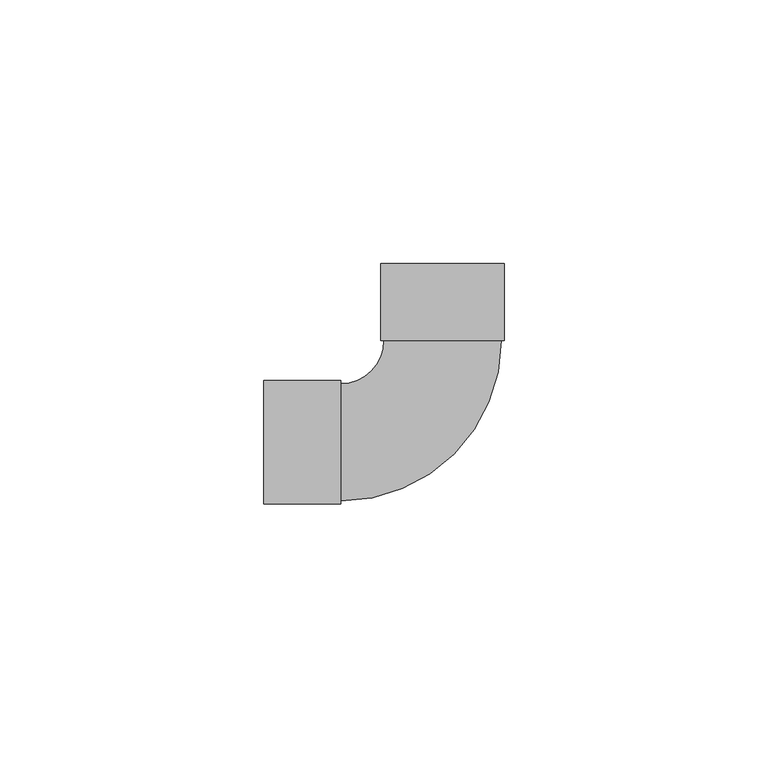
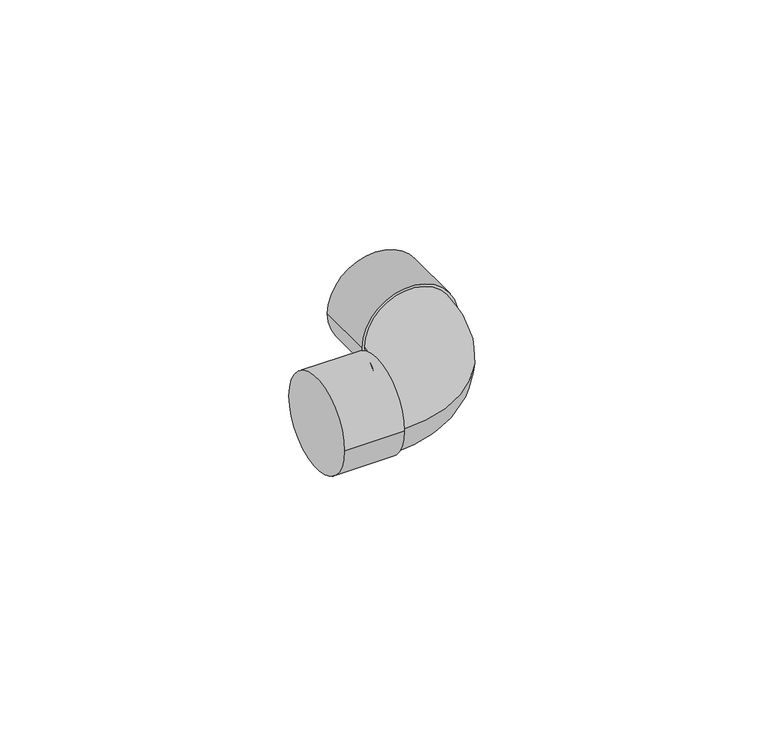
"""IFC4 building model written with IfcOpenShell, lengths in millimetres: pipe fitting geometry, Cotovelo - Soldado - CU : Padrão."""

import ifcopenshell
import ifcopenshell.guid

model = None  # the IFC model being written
_history = None  # IfcOwnerHistory: only IFC2X3 demands one
_inside = {}  # id of a spatial element -> (the spatial element, [elements in it])
_under = {}  # id of a project, library or spatial element -> (it, [spatial elements below it])
_declared = {}  # id of a project -> (the project, [libraries it declares])
_typed = {}  # id of a type object -> (the type object, [elements of that type])
_made_of = {}  # id of a material, layer set ... -> (it, [elements and type objects made of it])


def new_model(schema):
    """Start an empty IFC model of exactly this schema.

    Asked for "IFC4X3", IfcOpenShell would pick the latest addendum, in which some entities
    have other attributes; the version numbers below select the first issue.
    IFC2X3 requires an IfcOwnerHistory on every rooted entity: one is made here for all.
    """
    global model, _history
    if schema == "IFC4X3":
        model = ifcopenshell.file(schema_version=(4, 3, 0, 0))
    else:
        model = ifcopenshell.file(schema=schema)
    _inside.clear()
    _under.clear()
    _declared.clear()
    _typed.clear()
    _made_of.clear()
    _history = None
    if model.schema == "IFC2X3":
        org = make("IfcOrganization", Name="unknown")
        user = make(
            "IfcPersonAndOrganization",
            ThePerson=make("IfcPerson", FamilyName="unknown"),
            TheOrganization=org,
        )
        app = make(
            "IfcApplication",
            ApplicationDeveloper=org,
            Version="unknown",
            ApplicationFullName="unknown",
            ApplicationIdentifier="unknown",
        )
        _history = make(
            "IfcOwnerHistory",
            OwningUser=user,
            OwningApplication=app,
            ChangeAction="ADDED",
            CreationDate=0,
        )
    return model


def make(cls, **values):
    """One entity of the class cls with the attributes given. An attribute that is None is left unset."""
    return model.create_entity(
        cls, **{name: value for name, value in values.items() if value is not None}
    )


def rooted(cls, **values):
    """An entity with a GlobalId (a new one), such as an element, a storey or a relation."""
    return make(cls, GlobalId=ifcopenshell.guid.new(), OwnerHistory=_history, **values)


def si_unit(unit_type, name, prefix=None):
    """IfcSIUnit, for example si_unit("LENGTHUNIT", "METRE", prefix="MILLI")."""
    return make("IfcSIUnit", UnitType=unit_type, Prefix=prefix, Name=name)


def assignment(units):
    """IfcUnitAssignment: the units of a project."""
    return None if units is None else make("IfcUnitAssignment", Units=units)


def point(xyz):
    """IfcCartesianPoint."""
    return None if xyz is None else make("IfcCartesianPoint", Coordinates=xyz)


def direction(xyz):
    """IfcDirection."""
    return None if xyz is None else make("IfcDirection", DirectionRatios=xyz)


def frame(location, z_axis=None, x_axis=None):
    """IfcAxis2Placement3D, a coordinate frame: its origin and axes. An axis left out is left unset."""
    return make(
        "IfcAxis2Placement3D",
        Location=point(location),
        Axis=direction(z_axis),
        RefDirection=direction(x_axis),
    )


def origin():
    """The frame at (0, 0, 0) with its axes left unset."""
    return frame((0.0, 0.0, 0.0))


def place(relative_to, where):
    """IfcLocalPlacement: puts the frame where relative to a parent placement (None: the world)."""
    return make(
        "IfcLocalPlacement", PlacementRelTo=relative_to, RelativePlacement=where
    )


def context(
    kind, dimensions, precision=None, world=None, true_north=None, identifier=None
):
    """IfcGeometricRepresentationContext, for example the 3D "Model" context."""
    return make(
        "IfcGeometricRepresentationContext",
        ContextIdentifier=identifier,
        ContextType=kind,
        CoordinateSpaceDimension=dimensions,
        Precision=precision,
        WorldCoordinateSystem=world,
        TrueNorth=true_north,
    )


def project(units=None, contexts=None):
    """IfcProject with its units and contexts."""
    return rooted(
        "IfcProject",
        Name="project",
        RepresentationContexts=contexts,
        UnitsInContext=assignment(units),
    )


def spatial(cls, under=None, at=None, **own):
    """A site, building, storey or space (cls), placed at a placement, below another one or the project."""
    s = rooted(cls, ObjectPlacement=at, **own)
    if under is not None:
        _under.setdefault(under.id(), (under, []))[1].append(s)
    return s


def circle_curve(where, radius):
    """IfcCircle in the frame where."""
    return make("IfcCircle", Position=where, Radius=radius)


def ellipse_curve(where, semi_axis1, semi_axis2):
    """IfcEllipse in the frame where."""
    return make(
        "IfcEllipse", Position=where, SemiAxis1=semi_axis1, SemiAxis2=semi_axis2
    )


def trimmed(basis, trim1, trim2, sense, master):
    """IfcTrimmedCurve: the piece of a basis curve between two trims."""
    return make(
        "IfcTrimmedCurve",
        BasisCurve=basis,
        Trim1=trim1,
        Trim2=trim2,
        SenseAgreement=sense,
        MasterRepresentation=master,
    )


def shape(context_of_items, identifier, shape_type, items):
    """IfcShapeRepresentation: the items that make up one representation, for example the "Body"."""
    return make(
        "IfcShapeRepresentation",
        ContextOfItems=context_of_items,
        RepresentationIdentifier=identifier,
        RepresentationType=shape_type,
        Items=items,
    )


def source(mapping_origin, context_of_items, identifier, shape_type, items):
    """IfcRepresentationMap: a shape defined once, which mapped items show again and again."""
    return make(
        "IfcRepresentationMap",
        MappingOrigin=mapping_origin,
        MappedRepresentation=shape(context_of_items, identifier, shape_type, items),
    )


def transform(
    local_origin,
    x_axis=None,
    y_axis=None,
    z_axis=None,
    scale=None,
    scale2=None,
    scale3=None,
    uniform=True,
):
    """IfcCartesianTransformationOperator3D, or its non-uniform kind. x_axis, y_axis, z_axis: its Axis1, 2, 3."""
    if uniform:
        return make(
            "IfcCartesianTransformationOperator3D",
            Axis1=direction(x_axis),
            Axis2=direction(y_axis),
            LocalOrigin=point(local_origin),
            Scale=scale,
            Axis3=direction(z_axis),
        )
    return make(
        "IfcCartesianTransformationOperator3DnonUniform",
        Axis1=direction(x_axis),
        Axis2=direction(y_axis),
        LocalOrigin=point(local_origin),
        Scale=scale,
        Axis3=direction(z_axis),
        Scale2=scale2,
        Scale3=scale3,
    )


def mapped(mapping_source, mapping_target):
    """IfcMappedItem: shows the shape of a source again, moved by a transform."""
    return make(
        "IfcMappedItem", MappingSource=mapping_source, MappingTarget=mapping_target
    )


def made_of(thing, what):
    """Note that an element or type object is made of a material, layer set ...; save() writes the relation."""
    if what is not None:
        _made_of.setdefault(what.id(), (what, []))[1].append(thing)
    return thing


def element(
    cls,
    number,
    at=None,
    inside=None,
    cuts=None,
    type_object=None,
    material=None,
    context=None,
    identifier="Body",
    shape_type=None,
    held_by="IfcProductDefinitionShape",
    body=None,
    shapes=None,
    **own,
):
    """One element of the class cls, such as IfcWall. Its Tag is "e" and its number.

    at: its placement. inside: the storey or other place that contains it. cuts: it is an
    opening in that element (IfcRelVoidsElement). A single representation is given by context,
    identifier, shape_type and body (its items); several are given by shapes. held_by: the class
    of the entity that holds the representations. save() writes the other relations.
    """
    e = rooted(cls, Tag="e%d" % number, ObjectPlacement=at, **own)
    if body is not None:
        shapes = [shape(context, identifier, shape_type, body)]
    if shapes is not None:
        e.Representation = make(held_by, Representations=shapes)
    if inside is not None:
        _inside.setdefault(inside.id(), (inside, []))[1].append(e)
    if cuts is not None:
        rooted(
            "IfcRelVoidsElement", RelatingBuildingElement=cuts, RelatedOpeningElement=e
        )
    if type_object is not None:
        _typed.setdefault(type_object.id(), (type_object, []))[1].append(e)
    return made_of(e, material)


def aggregate(whole, parts):
    """IfcRelAggregates: a whole, such as a stair, and the parts it consists of."""
    return rooted("IfcRelAggregates", RelatingObject=whole, RelatedObjects=parts)


def save(model, path):
    """Write the relations noted so far, then the file.

    IfcRelAggregates (storeys below a building ...), IfcRelContainedInSpatialStructure (elements
    in a storey), IfcRelDefinesByType, IfcRelAssociatesMaterial and IfcRelDeclares: one each for
    every whole, place, type object, material and project.
    """
    for whole, parts in _under.values():
        aggregate(whole, parts)
    for where, things in _inside.values():
        rooted(
            "IfcRelContainedInSpatialStructure",
            RelatedElements=things,
            RelatingStructure=where,
        )
    for kind, things in _typed.values():
        rooted("IfcRelDefinesByType", RelatedObjects=things, RelatingType=kind)
    for what, things in _made_of.values():
        rooted("IfcRelAssociatesMaterial", RelatedObjects=things, RelatingMaterial=what)
    for by, libraries in _declared.values():
        rooted("IfcRelDeclares", RelatingContext=by, RelatedDefinitions=libraries)
    model.write(path)


def plane_surface(at):
    """IfcPlane: the flat surface through the origin of the frame at, square to its z axis."""
    return make("IfcPlane", Position=at)


def cylinder_surface(at, radius):
    """IfcCylindricalSurface: all points at the distance radius from the z axis of the frame at."""
    return make("IfcCylindricalSurface", Position=at, Radius=radius)


def revolved_surface(curve, axis_point, axis_direction):
    """IfcSurfaceOfRevolution: the curve turned about the line through axis_point along axis_direction."""
    return make(
        "IfcSurfaceOfRevolution",
        SweptCurve=make("IfcArbitraryOpenProfileDef", ProfileType="CURVE", Curve=curve),
        AxisPosition=make("IfcAxis1Placement", Location=point(axis_point), Axis=direction(axis_direction)),
    )


def advanced_brep(points, edges, surfaces, faces):
    """IfcAdvancedBrep: a solid bounded by faces that lie on surfaces and meet in shared edges.

    An edge is (start, end): straight between two places in points (the first is 0);
    or (start, end, curve); or (start, end, curve, False) where it runs against its curve.
    A face is (place in surfaces, loops), or (place, loops, False) where it looks against
    its surface's normal. A loop lists edges by number (the first is 1), with a minus sign
    where the edge is run from its end to its start. The first loop is the outer one.
    """
    corners = [point(p) for p in points]
    vertices = [make("IfcVertexPoint", VertexGeometry=c) for c in corners]
    made = []
    for start, end, *more in edges:
        made.append(
            make(
                "IfcEdgeCurve",
                EdgeStart=vertices[start],
                EdgeEnd=vertices[end],
                EdgeGeometry=more[0] if more else make("IfcPolyline", Points=[corners[start], corners[end]]),
                SameSense=more[1] if len(more) > 1 else True,
            )
        )
    hull = []
    for where, loops, *sense in faces:
        bounds = []
        for j, loop in enumerate(loops):
            ring = [make("IfcOrientedEdge", EdgeElement=made[abs(k) - 1], Orientation=k > 0) for k in loop]
            bounds.append(
                make(
                    "IfcFaceOuterBound" if j == 0 else "IfcFaceBound",
                    Bound=make("IfcEdgeLoop", EdgeList=ring),
                    Orientation=True,
                )
            )
        hull.append(make("IfcAdvancedFace", Bounds=bounds, FaceSurface=surfaces[where], SameSense=sense[0] if sense else True))
    return make("IfcAdvancedBrep", Outer=make("IfcClosedShell", CfsFaces=hull))


def pipe_fitting_5aefb692(model_context):
    return source(origin(), model_context, "Body", "AdvancedBrep", [
        advanced_brep(
        [(-11.11, 19.2882, 0.0), (-19.2882, 11.11, 0.0), (-19.2882, -11.11, 0.0), (11.11, 19.2882, 0.0), (-33.9316, -11.7322, 0.0), (-33.9316, 11.7322, 0.0), (-19.2882, -11.7322, 0.0), (-19.2882, 11.7322, 0.0), (-11.7322, 33.9316, 0.0), (11.7322, 33.9316, 0.0), (-11.7322, 19.2882, 0.0), (11.7322, 19.2882, 0.0)],
        [
            (0, 1, circle_curve(frame((-19.2882, 19.2882, 0.0), z_axis=(0.0, 0.0, -1.0), x_axis=(0.0, -1.0, 0.0)), 8.1782)),
            (1, 2, circle_curve(frame((-19.2882, 0.0, 0.0), z_axis=(1.0, 0.0, 0.0), x_axis=(0.0, 1.0, 0.0)), 11.11)),
            (2, 3, circle_curve(frame((-19.2882, 19.2882, 0.0), z_axis=(0.0, 0.0, 1.0), x_axis=(0.0, -1.0, 0.0)), 30.3982)),
            (3, 0, circle_curve(frame((0.0, 19.2882, 0.0), z_axis=(0.0, -1.0, 0.0), x_axis=(-1.0, 0.0, 0.0)), 11.11)),
            (0, 3, circle_curve(frame((0.0, 19.2882, 0.0), z_axis=(0.0, -1.0, 0.0), x_axis=(-1.0, 0.0, 0.0)), 11.11)),
            (2, 1, circle_curve(frame((-19.2882, 0.0, 0.0), z_axis=(1.0, 0.0, 0.0), x_axis=(0.0, 1.0, 0.0)), 11.11)),
            (4, 5, circle_curve(frame((-33.9316, 0.0, 0.0), z_axis=(-1.0, 0.0, 0.0), x_axis=(0.0, 1.0, 0.0)), 11.7322)),
            (5, 4, circle_curve(frame((-33.9316, 0.0, 0.0), z_axis=(-1.0, 0.0, 0.0), x_axis=(0.0, 1.0, 0.0)), 11.7322)),
            (6, 7, circle_curve(frame((-19.2882, 0.0, 0.0), z_axis=(1.0, 0.0, 0.0), x_axis=(0.0, 1.0, 0.0)), 11.7322)),
            (7, 6, circle_curve(frame((-19.2882, 0.0, 0.0), z_axis=(1.0, 0.0, 0.0), x_axis=(0.0, 1.0, 0.0)), 11.7322)),
            (4, 6),
            (7, 5),
            (8, 9, circle_curve(frame((0.0, 33.9316, 0.0), z_axis=(0.0, 1.0, 0.0), x_axis=(1.0, 0.0, 0.0)), 11.7322)),
            (9, 8, circle_curve(frame((0.0, 33.9316, 0.0), z_axis=(0.0, 1.0, 0.0), x_axis=(1.0, 0.0, 0.0)), 11.7322)),
            (10, 11, circle_curve(frame((0.0, 19.2882, 0.0), z_axis=(0.0, -1.0, 0.0), x_axis=(1.0, 0.0, 0.0)), 11.7322)),
            (11, 10, circle_curve(frame((0.0, 19.2882, 0.0), z_axis=(0.0, -1.0, 0.0), x_axis=(1.0, 0.0, 0.0)), 11.7322)),
            (8, 10),
            (11, 9),
        ],
        [
            revolved_surface(trimmed(ellipse_curve(frame((-19.2882, 0.0, 0.0), z_axis=(-1.0, 0.0, 0.0), x_axis=(0.0, 1.0, 0.0)), 11.11, 11.11), [point((-19.2882, -11.11, 0.0))], [point((-19.2882, 11.11, 0.0))], True, "CARTESIAN"), (-19.2882, 19.2882, 0.0), (0.0, 0.0, 1.0)),
            revolved_surface(trimmed(ellipse_curve(frame((-19.2882, 0.0, 0.0), z_axis=(-1.0, 0.0, 0.0), x_axis=(0.0, 1.0, 0.0)), 11.11, 11.11), [point((-19.2882, 11.11, 0.0))], [point((-19.2882, -11.11, 0.0))], True, "CARTESIAN"), (-19.2882, 19.2882, 0.0), (0.0, 0.0, 1.0)),
            plane_surface(frame((-33.9316, 0.0, 0.0), z_axis=(-1.0, 0.0, 0.0), x_axis=(0.0, 0.0, 1.0))),
            plane_surface(frame((-19.2882, 0.0, 0.0), z_axis=(1.0, 0.0, 0.0), x_axis=(0.0, 0.0, 1.0))),
            cylinder_surface(frame((-33.9316, 0.0, 0.0), z_axis=(-1.0, 0.0, 0.0), x_axis=(0.0, 1.0, 0.0)), 11.7322),
            plane_surface(frame((0.0, 33.9316, 0.0), z_axis=(0.0, 1.0, 0.0), x_axis=(0.0, 0.0, 1.0))),
            plane_surface(frame((0.0, 19.2882, 0.0), z_axis=(0.0, -1.0, 0.0), x_axis=(0.0, 0.0, 1.0))),
            cylinder_surface(frame((0.0, 33.9316, 0.0), z_axis=(0.0, 1.0, 0.0), x_axis=(1.0, 0.0, 0.0)), 11.7322),
        ],
        [
            (0, [[1, 2, 3, 4]]),
            (1, [[-1, 5, -3, 6]]),
            (2, [[7, 8]]),
            (3, [[9, 10], [-2, -6]]),
            (4, [[-7, 11, -10, 12]]),
            (4, [[-8, -12, -9, -11]]),
            (5, [[13, 14]]),
            (6, [[15, 16], [-4, -5]]),
            (7, [[-13, 17, -16, 18]]),
            (7, [[-14, -18, -15, -17]]),
        ],
    ),
    ])


if __name__ == "__main__":
    model = new_model("IFC4")
    model_context = context("Model", 3, world=origin())
    ifc_project = project(units=[si_unit("LENGTHUNIT", "METRE", prefix="MILLI")], contexts=[model_context])
    site = spatial("IfcSite", under=ifc_project)
    building = spatial("IfcBuilding", under=site)
    placement = place(None, origin())
    pipe_fitting_shape = pipe_fitting_5aefb692(model_context)
    element("IfcPipeFitting", 1, ObjectType="Cotovelo - Soldado - CU : Padrão", at=placement, inside=building, context=model_context, shape_type="MappedRepresentation", body=[
        mapped(pipe_fitting_shape, transform((0.0, 0.0, 0.0), x_axis=(1.0, 0.0, 0.0), y_axis=(0.0, 1.0, 0.0), z_axis=(0.0, 0.0, 1.0))),
    ])
    save(model, "model.ifc")
